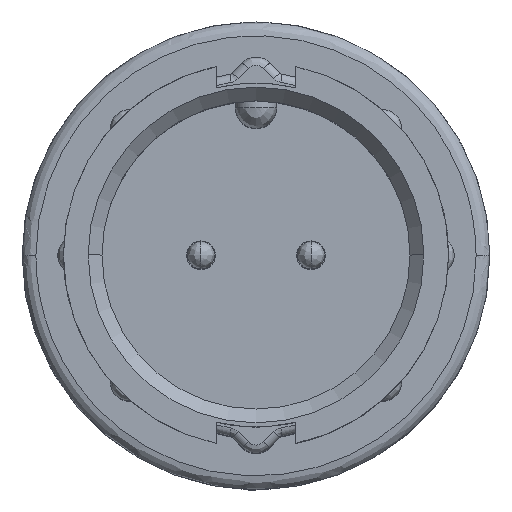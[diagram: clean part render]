
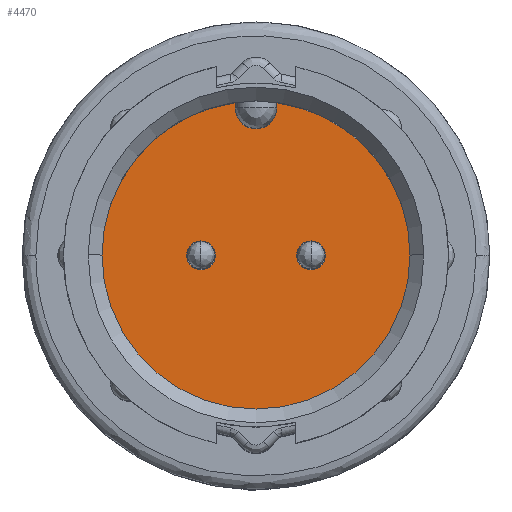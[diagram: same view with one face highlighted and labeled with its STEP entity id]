
A CAD part, top view. The second image highlights one B-rep face of the part: STEP entity #4470.
In plain terms, the highlighted planar face has unit normal (0, 0, 1).
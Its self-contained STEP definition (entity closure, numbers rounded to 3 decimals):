
#39 = CARTESIAN_POINT ( 'NONE',  ( 5.6, 0., -9. ) ) ;
#497 = AXIS2_PLACEMENT_3D ( 'NONE', #16975, #7591, #23046 ) ;
#536 = DIRECTION ( 'NONE',  ( 1., 0., 0. ) ) ;
#625 = VERTEX_POINT ( 'NONE', #16614 ) ;
#789 = FACE_BOUND ( 'NONE', #25249, .T. ) ;
#936 = CIRCLE ( 'NONE', #15015, 0.525 ) ;
#970 = ORIENTED_EDGE ( 'NONE', *, *, #15752, .F. ) ;
#1640 = ORIENTED_EDGE ( 'NONE', *, *, #6605, .F. ) ;
#1852 = EDGE_CURVE ( 'NONE', #18168, #15505, #936, .T. ) ;
#2083 = DIRECTION ( 'NONE',  ( 0., -1., 0. ) ) ;
#2566 = AXIS2_PLACEMENT_3D ( 'NONE', #6323, #17482, #22209 ) ;
#2625 = DIRECTION ( 'NONE',  ( 1., 0., 0. ) ) ;
#2753 = DIRECTION ( 'NONE',  ( 0., 0., 1. ) ) ;
#3009 = CARTESIAN_POINT ( 'NONE',  ( -5.824, -5.825, -9. ) ) ;
#3336 = CIRCLE ( 'NONE', #24460, 0.525 ) ;
#4470 = ADVANCED_FACE ( 'NONE', ( #22710, #789, #27119 ), #23154, .T. ) ;
#5035 = EDGE_CURVE ( 'NONE', #13902, #18766, #8443, .T. ) ;
#6028 = CARTESIAN_POINT ( 'NONE',  ( 0., 0., -9. ) ) ;
#6323 = CARTESIAN_POINT ( 'NONE',  ( 0., 5.35, -9. ) ) ;
#6439 = EDGE_CURVE ( 'NONE', #10731, #15273, #3336, .T. ) ;
#6562 = DIRECTION ( 'NONE',  ( 0., 1., 0. ) ) ;
#6605 = EDGE_CURVE ( 'NONE', #15505, #18168, #26805, .T. ) ;
#7021 = DIRECTION ( 'NONE',  ( 0., 0., 1. ) ) ;
#7429 = ORIENTED_EDGE ( 'NONE', *, *, #6439, .F. ) ;
#7517 = CARTESIAN_POINT ( 'NONE',  ( -1.475, 0., -9. ) ) ;
#7591 = DIRECTION ( 'NONE',  ( 0., 0., 1. ) ) ;
#7691 = CARTESIAN_POINT ( 'NONE',  ( 0., 0., -9. ) ) ;
#7964 = DIRECTION ( 'NONE',  ( 1., 0., 0. ) ) ;
#8443 = CIRCLE ( 'NONE', #16428, 5.6 ) ;
#8616 = ORIENTED_EDGE ( 'NONE', *, *, #1852, .F. ) ;
#9113 = CIRCLE ( 'NONE', #2566, 0.75 ) ;
#9845 = VERTEX_POINT ( 'NONE', #13748 ) ;
#10269 = EDGE_LOOP ( 'NONE', ( #24285, #16338, #12198, #25833, #970, #25979 ) ) ;
#10576 = DIRECTION ( 'NONE',  ( 1., 0., 0. ) ) ;
#10645 = EDGE_CURVE ( 'NONE', #14839, #18766, #13166, .T. ) ;
#10731 = VERTEX_POINT ( 'NONE', #14053 ) ;
#10819 = CARTESIAN_POINT ( 'NONE',  ( 1.475, 0., -9. ) ) ;
#10898 = VECTOR ( 'NONE', #6562, 1000. ) ;
#12198 = ORIENTED_EDGE ( 'NONE', *, *, #5035, .T. ) ;
#12948 = AXIS2_PLACEMENT_3D ( 'NONE', #7691, #28425, #7964 ) ;
#13126 = CARTESIAN_POINT ( 'NONE',  ( 0.75, 5.35, -9. ) ) ;
#13166 = LINE ( 'NONE', #15678, #10898 ) ;
#13322 = ORIENTED_EDGE ( 'NONE', *, *, #22581, .F. ) ;
#13413 = CIRCLE ( 'NONE', #18099, 0.525 ) ;
#13748 = CARTESIAN_POINT ( 'NONE',  ( -0.75, 5.55, -9. ) ) ;
#13902 = VERTEX_POINT ( 'NONE', #39 ) ;
#14053 = CARTESIAN_POINT ( 'NONE',  ( 2.525, 0., -9. ) ) ;
#14057 = EDGE_CURVE ( 'NONE', #9845, #625, #19432, .T. ) ;
#14754 = CIRCLE ( 'NONE', #26018, 5.6 ) ;
#14839 = VERTEX_POINT ( 'NONE', #13126 ) ;
#15015 = AXIS2_PLACEMENT_3D ( 'NONE', #15135, #24113, #19551 ) ;
#15080 = AXIS2_PLACEMENT_3D ( 'NONE', #3009, #20952, #20350 ) ;
#15135 = CARTESIAN_POINT ( 'NONE',  ( -2., 0., -9. ) ) ;
#15273 = VERTEX_POINT ( 'NONE', #10819 ) ;
#15310 = CIRCLE ( 'NONE', #12948, 5.6 ) ;
#15354 = DIRECTION ( 'NONE',  ( 0., 0., 1. ) ) ;
#15431 = VERTEX_POINT ( 'NONE', #28858 ) ;
#15505 = VERTEX_POINT ( 'NONE', #7517 ) ;
#15678 = CARTESIAN_POINT ( 'NONE',  ( 0.75, -0.026, -9. ) ) ;
#15752 = EDGE_CURVE ( 'NONE', #625, #14839, #9113, .T. ) ;
#16338 = ORIENTED_EDGE ( 'NONE', *, *, #19565, .T. ) ;
#16428 = AXIS2_PLACEMENT_3D ( 'NONE', #6028, #21771, #10576 ) ;
#16614 = CARTESIAN_POINT ( 'NONE',  ( -0.75, 5.35, -9. ) ) ;
#16975 = CARTESIAN_POINT ( 'NONE',  ( -2., 0., -9. ) ) ;
#17268 = CARTESIAN_POINT ( 'NONE',  ( -2.525, 0., -9. ) ) ;
#17482 = DIRECTION ( 'NONE',  ( 0., 0., 1. ) ) ;
#17504 = CARTESIAN_POINT ( 'NONE',  ( -0.75, -0.026, -9. ) ) ;
#17526 = VECTOR ( 'NONE', #2083, 1000. ) ;
#18099 = AXIS2_PLACEMENT_3D ( 'NONE', #21987, #15354, #24332 ) ;
#18168 = VERTEX_POINT ( 'NONE', #17268 ) ;
#18667 = CARTESIAN_POINT ( 'NONE',  ( 0.75, 5.55, -9. ) ) ;
#18766 = VERTEX_POINT ( 'NONE', #18667 ) ;
#19432 = LINE ( 'NONE', #17504, #17526 ) ;
#19551 = DIRECTION ( 'NONE',  ( 1., 0., 0. ) ) ;
#19565 = EDGE_CURVE ( 'NONE', #15431, #13902, #14754, .T. ) ;
#20350 = DIRECTION ( 'NONE',  ( 1., 0., 0. ) ) ;
#20952 = DIRECTION ( 'NONE',  ( 0., 0., 1. ) ) ;
#21771 = DIRECTION ( 'NONE',  ( 0., 0., 1. ) ) ;
#21987 = CARTESIAN_POINT ( 'NONE',  ( 2., 0., -9. ) ) ;
#22209 = DIRECTION ( 'NONE',  ( 1., 0., 0. ) ) ;
#22581 = EDGE_CURVE ( 'NONE', #15273, #10731, #13413, .T. ) ;
#22710 = FACE_BOUND ( 'NONE', #28471, .T. ) ;
#22901 = CARTESIAN_POINT ( 'NONE',  ( 2., 0., -9. ) ) ;
#22954 = EDGE_CURVE ( 'NONE', #9845, #15431, #15310, .T. ) ;
#23046 = DIRECTION ( 'NONE',  ( 1., 0., 0. ) ) ;
#23154 = PLANE ( 'NONE',  #15080 ) ;
#24113 = DIRECTION ( 'NONE',  ( 0., 0., 1. ) ) ;
#24285 = ORIENTED_EDGE ( 'NONE', *, *, #22954, .T. ) ;
#24332 = DIRECTION ( 'NONE',  ( 1., 0., 0. ) ) ;
#24460 = AXIS2_PLACEMENT_3D ( 'NONE', #22901, #2753, #536 ) ;
#25249 = EDGE_LOOP ( 'NONE', ( #1640, #8616 ) ) ;
#25833 = ORIENTED_EDGE ( 'NONE', *, *, #10645, .F. ) ;
#25979 = ORIENTED_EDGE ( 'NONE', *, *, #14057, .F. ) ;
#26018 = AXIS2_PLACEMENT_3D ( 'NONE', #26885, #7021, #2625 ) ;
#26805 = CIRCLE ( 'NONE', #497, 0.525 ) ;
#26885 = CARTESIAN_POINT ( 'NONE',  ( 0., 0., -9. ) ) ;
#27119 = FACE_OUTER_BOUND ( 'NONE', #10269, .T. ) ;
#28425 = DIRECTION ( 'NONE',  ( 0., 0., 1. ) ) ;
#28471 = EDGE_LOOP ( 'NONE', ( #7429, #13322 ) ) ;
#28858 = CARTESIAN_POINT ( 'NONE',  ( -5.6, 0., -9. ) ) ;
